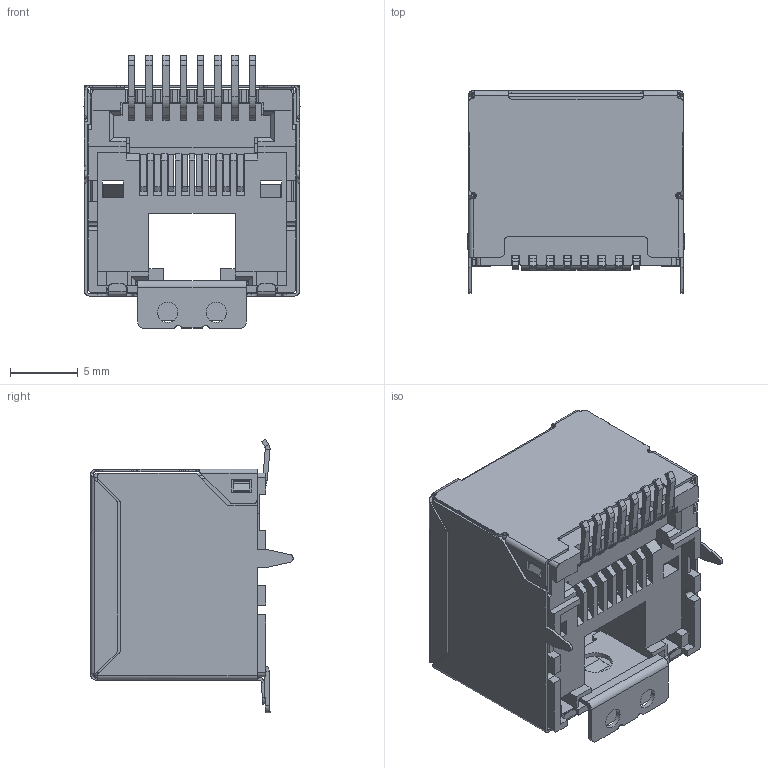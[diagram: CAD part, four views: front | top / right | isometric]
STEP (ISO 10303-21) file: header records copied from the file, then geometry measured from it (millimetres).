
FILE_DESCRIPTION((''),'2;1');
FILE_NAME('1_27H_SMT0001','2024-09-04T08:50:27',('DGKYD'),(''),'CREO PARAMETRIC BY PTC INC, 2019010','CREO PARAMETRIC BY PTC INC, 2019010','');
FILE_SCHEMA(('CONFIG_CONTROL_DESIGN'));
Length unit declared in the file: millimetre
Products named in the file (1): 1_27H_SMT0001
Bounding box: 15.95 x 14.9 x 20.15 mm (x, y, z)
Volume: 1400.6 mm3; surface area: 4168.4 mm2
Topology: 1 solids, 1 shells, 1242 faces, 3325 edges, 2074 vertices
Faces by surface type: plane 930, cylinder 294, bspline 18
Entity records: 38724 total; most frequent: CARTESIAN_POINT 7514, ORIENTED_EDGE 6650, DIRECTION 6304, EDGE_CURVE 3325, VECTOR 2628, LINE 2628, VERTEX_POINT 2074, AXIS2_PLACEMENT_3D 1838
